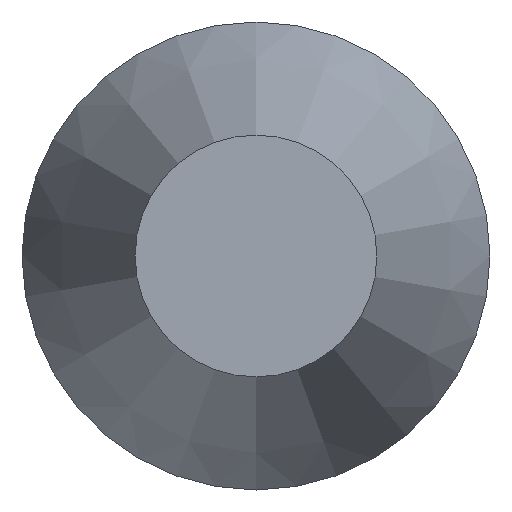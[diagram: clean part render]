
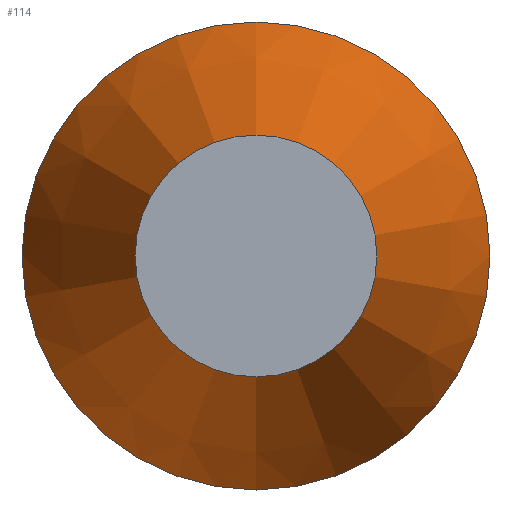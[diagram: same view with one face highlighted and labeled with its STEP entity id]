
A CAD part, left-side view. The second image highlights one B-rep face of the part: STEP entity #114.
In plain terms, the highlighted conical face has half-angle 20 degrees and reference radius 3 mm.
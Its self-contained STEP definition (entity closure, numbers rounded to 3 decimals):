
#95=CONICAL_SURFACE('',#181,3.,20.);
#102=FACE_BOUND('',#128,.T.);
#103=FACE_BOUND('',#129,.T.);
#114=ADVANCED_FACE('',(#102,#103),#95,.T.);
#128=EDGE_LOOP('',(#142));
#129=EDGE_LOOP('',(#143));
#142=ORIENTED_EDGE('',*,*,#162,.T.);
#143=ORIENTED_EDGE('',*,*,#163,.F.);
#155=VERTEX_POINT('',#229);
#156=VERTEX_POINT('',#232);
#162=EDGE_CURVE('',#155,#155,#169,.T.);
#163=EDGE_CURVE('',#156,#156,#170,.T.);
#169=CIRCLE('',#178,1.125);
#170=CIRCLE('',#180,3.);
#178=AXIS2_PLACEMENT_3D('',#228,#198,#199);
#180=AXIS2_PLACEMENT_3D('',#231,#202,#203);
#181=AXIS2_PLACEMENT_3D('',#233,#204,#205);
#198=DIRECTION('',(1.,0.,0.));
#199=DIRECTION('',(0.,0.,-1.));
#202=DIRECTION('',(1.,0.,0.));
#203=DIRECTION('',(0.,0.,-1.));
#204=DIRECTION('',(1.,0.,0.));
#205=DIRECTION('',(0.,0.,-1.));
#228=CARTESIAN_POINT('',(7903.912,6103.288,0.));
#229=CARTESIAN_POINT('',(7903.912,6103.288,-1.125));
#231=CARTESIAN_POINT('',(7909.063,6103.288,0.));
#232=CARTESIAN_POINT('',(7909.063,6103.288,-3.));
#233=CARTESIAN_POINT('',(7909.063,6103.288,0.));
